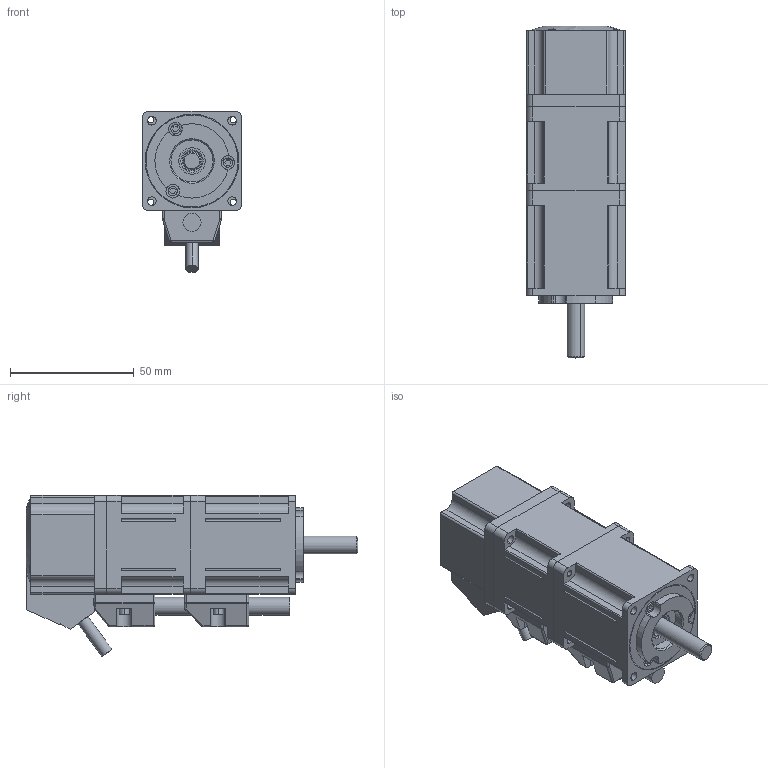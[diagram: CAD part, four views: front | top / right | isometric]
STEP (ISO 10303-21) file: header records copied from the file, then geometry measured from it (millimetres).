
FILE_DESCRIPTION (( 'STEP AP203' ), '1' );
FILE_NAME ('40ST-M00130Z.STEP', '2020-06-11T09:02:48', ( 'zengjxin' ), ( 'Microsoft' ), 'SwSTEP 2.0', 'SolidWorks 2016', '' );
FILE_SCHEMA (( 'CONFIG_CONTROL_DESIGN' ));
Length unit declared in the file: millimetre
Products named in the file (1): 40ST-M00130Z
Bounding box: 40 x 134.15 x 65.08 mm (x, y, z)
Surface area: 31698.9 mm2 (no closed solid volume)
Topology: 0 solids, 10 shells, 399 faces, 1111 edges, 721 vertices
Faces by surface type: cylinder 212, plane 160, bspline 23, cone 4
Entity records: 13192 total; most frequent: CARTESIAN_POINT 2670, DIRECTION 2293, ORIENTED_EDGE 2042, EDGE_CURVE 1103, AXIS2_PLACEMENT_3D 823, VERTEX_POINT 721, VECTOR 647, LINE 647
